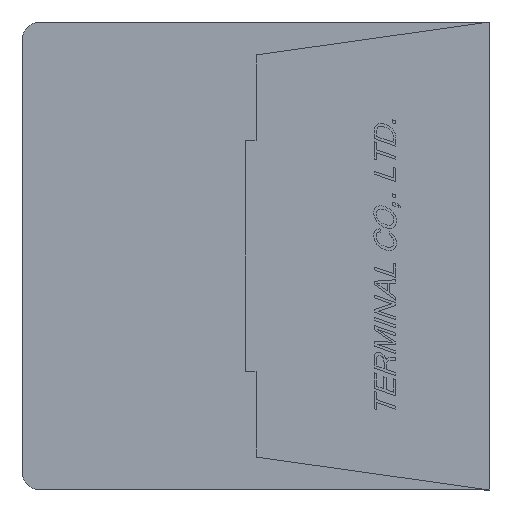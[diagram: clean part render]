
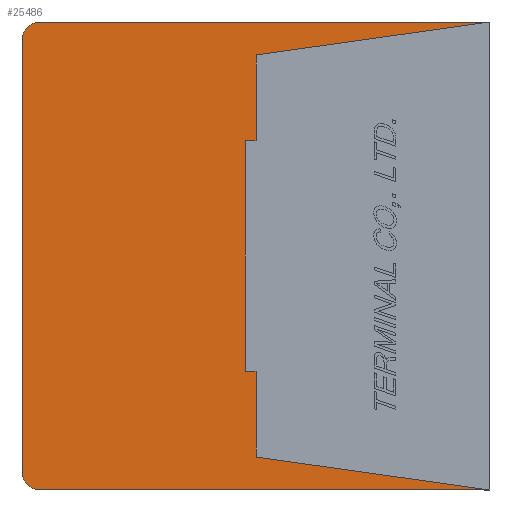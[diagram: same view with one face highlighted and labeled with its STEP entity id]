
A CAD part, left-side view. The second image highlights one B-rep face of the part: STEP entity #25486.
In plain terms, the highlighted planar face has unit normal (-1, 0, 0).
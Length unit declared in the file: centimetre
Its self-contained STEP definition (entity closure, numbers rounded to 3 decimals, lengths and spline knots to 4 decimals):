
#1330=CIRCLE('',#43611,0.05);
#1331=CIRCLE('',#43614,0.05);
#2288=VERTEX_POINT('',#35515);
#2289=VERTEX_POINT('',#35517);
#2290=VERTEX_POINT('',#35521);
#2291=VERTEX_POINT('',#35525);
#2292=VERTEX_POINT('',#35529);
#2293=VERTEX_POINT('',#35533);
#2294=VERTEX_POINT('',#35537);
#2295=VERTEX_POINT('',#35539);
#2296=VERTEX_POINT('',#35541);
#2297=VERTEX_POINT('',#35543);
#2298=VERTEX_POINT('',#35545);
#2299=VERTEX_POINT('',#35547);
#4996=VECTOR('',#29488,1.);
#5000=VECTOR('',#29497,1.);
#5003=VECTOR('',#29505,1.);
#5004=VECTOR('',#29507,1.);
#5005=VECTOR('',#29508,1.);
#5006=VECTOR('',#29509,1.);
#5007=VECTOR('',#29510,1.);
#5008=VECTOR('',#29511,1.);
#5009=VECTOR('',#29512,1.);
#5010=VECTOR('',#29513,1.);
#8002=LINE('',#35516,#4996);
#8006=LINE('',#35526,#5000);
#8009=LINE('',#35534,#5003);
#8010=LINE('',#35536,#5004);
#8011=LINE('',#35538,#5005);
#8012=LINE('',#35540,#5006);
#8013=LINE('',#35542,#5007);
#8014=LINE('',#35544,#5008);
#8015=LINE('',#35546,#5009);
#8016=LINE('',#35548,#5010);
#11336=EDGE_CURVE('',#2289,#2288,#8002,.T.);
#11339=EDGE_CURVE('',#2290,#2288,#1330,.T.);
#11341=EDGE_CURVE('',#2290,#2291,#8006,.T.);
#11343=EDGE_CURVE('',#2292,#2291,#1331,.T.);
#11345=EDGE_CURVE('',#2292,#2293,#8009,.T.);
#11346=EDGE_CURVE('',#2294,#2289,#8010,.T.);
#11347=EDGE_CURVE('',#2293,#2295,#8011,.T.);
#11348=EDGE_CURVE('',#2295,#2296,#8012,.T.);
#11349=EDGE_CURVE('',#2296,#2297,#8013,.T.);
#11350=EDGE_CURVE('',#2297,#2298,#8014,.T.);
#11351=EDGE_CURVE('',#2298,#2299,#8015,.T.);
#11352=EDGE_CURVE('',#2299,#2294,#8016,.T.);
#16511=ORIENTED_EDGE('',*,*,#11346,.T.);
#16512=ORIENTED_EDGE('',*,*,#11336,.T.);
#16513=ORIENTED_EDGE('',*,*,#11339,.F.);
#16514=ORIENTED_EDGE('',*,*,#11341,.T.);
#16515=ORIENTED_EDGE('',*,*,#11343,.F.);
#16516=ORIENTED_EDGE('',*,*,#11345,.T.);
#16517=ORIENTED_EDGE('',*,*,#11347,.T.);
#16518=ORIENTED_EDGE('',*,*,#11348,.T.);
#16519=ORIENTED_EDGE('',*,*,#11349,.T.);
#16520=ORIENTED_EDGE('',*,*,#11350,.T.);
#16521=ORIENTED_EDGE('',*,*,#11351,.T.);
#16522=ORIENTED_EDGE('',*,*,#11352,.T.);
#22196=EDGE_LOOP('',(#16511,#16512,#16513,#16514,#16515,#16516,#16517,#16518,
#16519,#16520,#16521,#16522));
#23878=FACE_BOUND('',#22196,.T.);
#25486=ADVANCED_FACE('',(#23878),#26874,.F.);
#26874=PLANE('',#43616);
#29488=DIRECTION('',(0.,1.,0.));
#29493=DIRECTION('',(1.,0.,0.));
#29494=DIRECTION('',(0.,0.,-0.05));
#29497=DIRECTION('',(0.,0.,-1.));
#29501=DIRECTION('',(1.,0.,0.));
#29502=DIRECTION('',(0.,0.,-0.05));
#29505=DIRECTION('',(0.,-1.,0.));
#29506=DIRECTION('',(1.,0.,0.));
#29507=DIRECTION('',(0.,-0.99,0.139));
#29508=DIRECTION('',(0.,0.99,0.139));
#29509=DIRECTION('',(0.,0.,1.));
#29510=DIRECTION('',(0.,1.,0.));
#29511=DIRECTION('',(0.,0.,1.));
#29512=DIRECTION('',(0.,-1.,0.));
#29513=DIRECTION('',(0.,0.,1.));
#35515=CARTESIAN_POINT('',(-0.889,1.23,0.64));
#35516=CARTESIAN_POINT('',(-0.889,0.,0.64));
#35517=CARTESIAN_POINT('',(-0.889,0.,0.64));
#35521=CARTESIAN_POINT('',(-0.889,1.28,0.59));
#35522=CARTESIAN_POINT('',(-0.889,1.23,0.59));
#35525=CARTESIAN_POINT('',(-0.889,1.28,-0.59));
#35526=CARTESIAN_POINT('',(-0.889,1.28,0.59));
#35529=CARTESIAN_POINT('',(-0.889,1.23,-0.64));
#35530=CARTESIAN_POINT('',(-0.889,1.23,-0.59));
#35533=CARTESIAN_POINT('',(-0.889,0.,-0.64));
#35534=CARTESIAN_POINT('',(-0.889,1.23,-0.64));
#35535=CARTESIAN_POINT('',(-0.889,0.6345,0.));
#35536=CARTESIAN_POINT('',(-0.889,0.64,0.55));
#35537=CARTESIAN_POINT('',(-0.889,0.64,0.55));
#35538=CARTESIAN_POINT('',(-0.889,0.,-0.64));
#35539=CARTESIAN_POINT('',(-0.889,0.64,-0.55));
#35540=CARTESIAN_POINT('',(-0.889,0.64,-0.55));
#35541=CARTESIAN_POINT('',(-0.889,0.64,-0.315));
#35542=CARTESIAN_POINT('',(-0.889,0.64,-0.315));
#35543=CARTESIAN_POINT('',(-0.889,0.67,-0.315));
#35544=CARTESIAN_POINT('',(-0.889,0.67,-0.315));
#35545=CARTESIAN_POINT('',(-0.889,0.67,0.315));
#35546=CARTESIAN_POINT('',(-0.889,0.67,0.315));
#35547=CARTESIAN_POINT('',(-0.889,0.64,0.315));
#35548=CARTESIAN_POINT('',(-0.889,0.64,0.315));
#43611=AXIS2_PLACEMENT_3D('',#35522,#29493,#29494);
#43614=AXIS2_PLACEMENT_3D('',#35530,#29501,#29502);
#43616=AXIS2_PLACEMENT_3D('',#35535,#29506,$);
